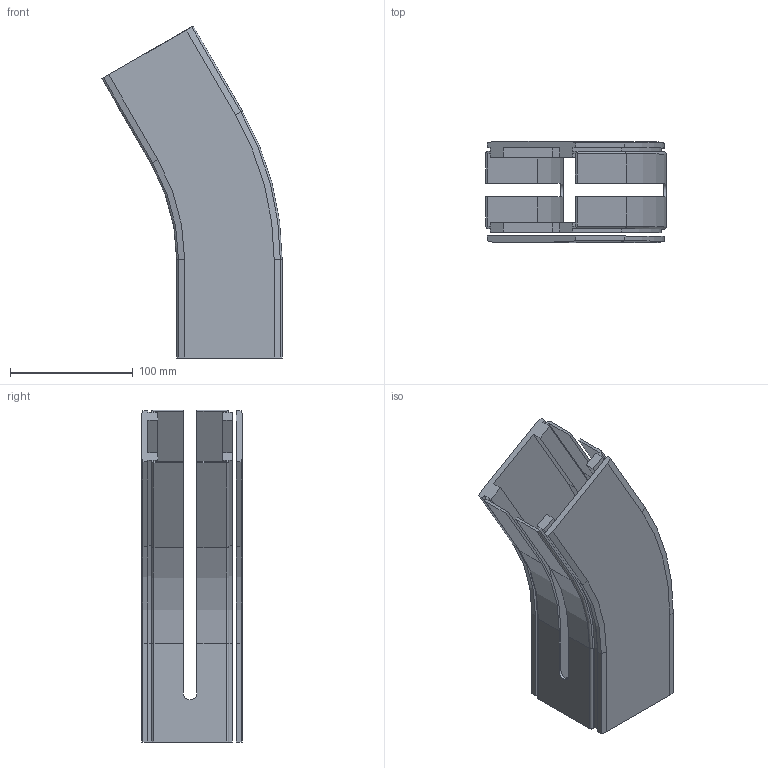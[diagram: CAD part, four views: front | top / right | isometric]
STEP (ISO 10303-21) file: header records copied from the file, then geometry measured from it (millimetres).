
FILE_DESCRIPTION((''),'2;1');
FILE_NAME('C:\Vault Klient\Projekt\Koncept konstruktion\Serie 530 Balk\530-5140.stp','2010-12-01T07:29:44',('Mathias'),(''),'Autodesk Inventor 2011','Autodesk Inventor 2011','');
FILE_SCHEMA(('AUTOMOTIVE_DESIGN { 1 0 10303 214 1 1 1 1 }'));
Length unit declared in the file: millimetre
Products named in the file (1): 530-5140
Bounding box: 147.03 x 82 x 270.78 mm (x, y, z)
Volume: 382913.2 mm3; surface area: 185046.4 mm2
Topology: 2 solids, 2 shells, 159 faces, 434 edges, 284 vertices
Faces by surface type: plane 103, cylinder 34, bspline 14, cone 4, torus 4
Entity records: 5158 total; most frequent: CARTESIAN_POINT 1072, ORIENTED_EDGE 868, DIRECTION 774, EDGE_CURVE 434, VECTOR 330, LINE 330, VERTEX_POINT 284, AXIS2_PLACEMENT_3D 222
